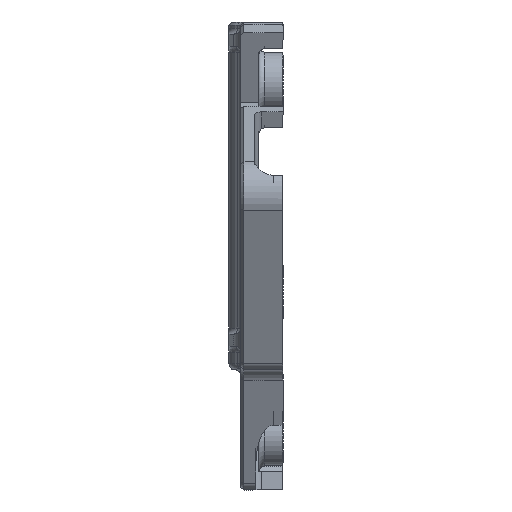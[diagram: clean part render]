
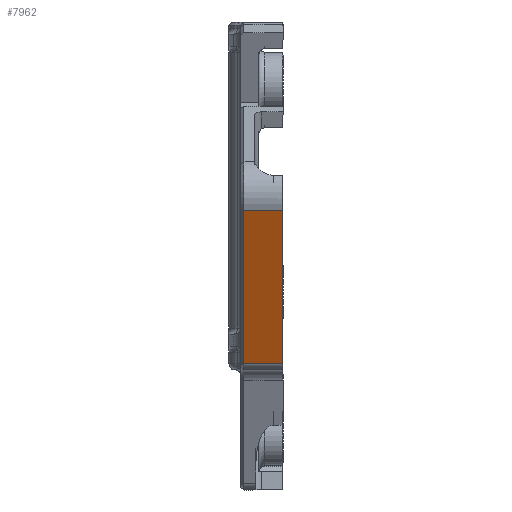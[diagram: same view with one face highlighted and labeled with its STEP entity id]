
A CAD part, left-side view. The second image highlights one B-rep face of the part: STEP entity #7962.
In plain terms, the highlighted planar face has unit normal (-0.895, 0, -0.446).
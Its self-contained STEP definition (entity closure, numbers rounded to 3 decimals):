
#518 = VERTEX_POINT ( 'NONE', #7546 ) ;
#963 = EDGE_CURVE ( 'NONE', #5780, #5565, #5108, .T. ) ;
#1003 = DIRECTION ( 'NONE',  ( -0.446, 0., 0.895 ) ) ;
#1042 = LINE ( 'NONE', #3410, #7980 ) ;
#1277 = ORIENTED_EDGE ( 'NONE', *, *, #2815, .T. ) ;
#1532 = EDGE_LOOP ( 'NONE', ( #5635, #5075, #4244, #1277 ) ) ;
#1836 = LINE ( 'NONE', #7394, #7737 ) ;
#2541 = DIRECTION ( 'NONE',  ( 0.446, 0., -0.895 ) ) ;
#2796 = CARTESIAN_POINT ( 'NONE',  ( -70.569, -2., 3.826 ) ) ;
#2815 = EDGE_CURVE ( 'NONE', #518, #5541, #1042, .T. ) ;
#3155 = LINE ( 'NONE', #6832, #4139 ) ;
#3410 = CARTESIAN_POINT ( 'NONE',  ( -71.909, -2., 6.512 ) ) ;
#3654 = DIRECTION ( 'NONE',  ( 0., -1., 0. ) ) ;
#3833 = EDGE_CURVE ( 'NONE', #5565, #518, #3155, .T. ) ;
#4139 = VECTOR ( 'NONE', #3654, 1000. ) ;
#4244 = ORIENTED_EDGE ( 'NONE', *, *, #3833, .T. ) ;
#4316 = AXIS2_PLACEMENT_3D ( 'NONE', #7107, #7020, #5021 ) ;
#4486 = PLANE ( 'NONE',  #4316 ) ;
#5021 = DIRECTION ( 'NONE',  ( 0.446, 0., -0.895 ) ) ;
#5075 = ORIENTED_EDGE ( 'NONE', *, *, #963, .T. ) ;
#5108 = LINE ( 'NONE', #5145, #6738 ) ;
#5145 = CARTESIAN_POINT ( 'NONE',  ( -64.196, 1.25, -8.946 ) ) ;
#5541 = VERTEX_POINT ( 'NONE', #2796 ) ;
#5565 = VERTEX_POINT ( 'NONE', #6462 ) ;
#5635 = ORIENTED_EDGE ( 'NONE', *, *, #6135, .T. ) ;
#5780 = VERTEX_POINT ( 'NONE', #7727 ) ;
#6135 = EDGE_CURVE ( 'NONE', #5541, #5780, #1836, .T. ) ;
#6326 = FACE_OUTER_BOUND ( 'NONE', #1532, .T. ) ;
#6462 = CARTESIAN_POINT ( 'NONE',  ( -64.196, 1.25, -8.946 ) ) ;
#6738 = VECTOR ( 'NONE', #2541, 1000. ) ;
#6832 = CARTESIAN_POINT ( 'NONE',  ( -64.196, 1.5, -8.946 ) ) ;
#7020 = DIRECTION ( 'NONE',  ( 0.895, 0., 0.446 ) ) ;
#7107 = CARTESIAN_POINT ( 'NONE',  ( -54.976, 1.5, -27.428 ) ) ;
#7394 = CARTESIAN_POINT ( 'NONE',  ( -70.569, 1.5, 3.826 ) ) ;
#7546 = CARTESIAN_POINT ( 'NONE',  ( -64.196, -2., -8.946 ) ) ;
#7727 = CARTESIAN_POINT ( 'NONE',  ( -70.569, 1.25, 3.826 ) ) ;
#7737 = VECTOR ( 'NONE', #8097, 1000. ) ;
#7962 = ADVANCED_FACE ( 'NONE', ( #6326 ), #4486, .F. ) ;
#7980 = VECTOR ( 'NONE', #1003, 1000. ) ;
#8097 = DIRECTION ( 'NONE',  ( 0., 1., 0. ) ) ;
